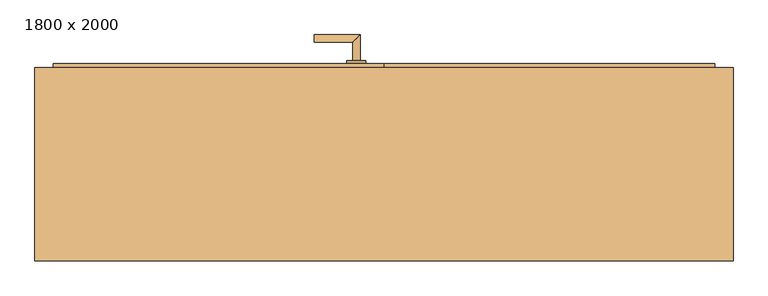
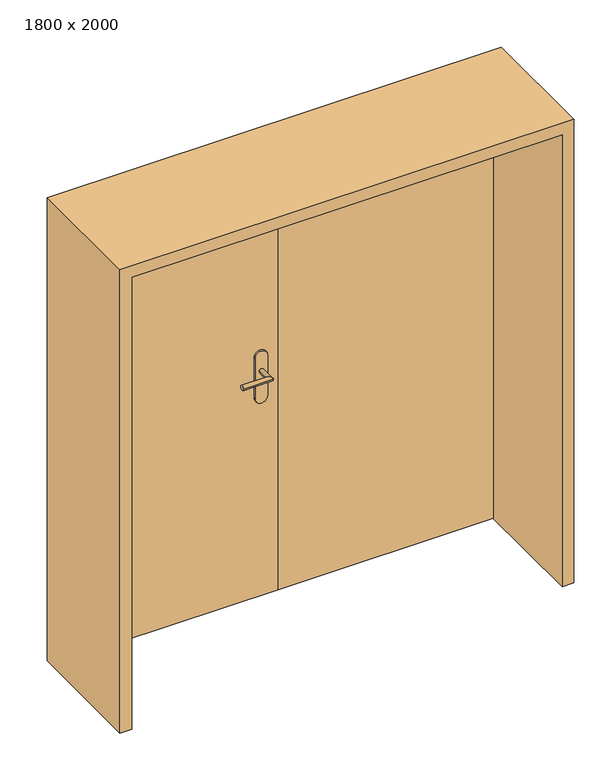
"""IFC4 building model written with IfcOpenShell, lengths in millimetres: door geometry, Dvoukridle oboustrana zaruben : 1800 x 2000."""

from ifc_helpers import new_model, si_unit, point, frame, frame_2d, origin, origin_with_axes, place, context, project, spatial, polyline, circle_curve, ellipse_curve, trimmed, segment, composite_curve, outline, extrude, source, transform, mapped, element, save
from ifc_brep_helpers import plane_surface, cylinder_surface, advanced_brep


def door_1800_x_2000_2bd13d9d(model_context):
    return source(origin(), model_context, "Body", "SolidModel", [
        extrude(outline(composite_curve([segment(polyline([(883.5, -69.0), (1061.5, -69.0)]), True, "CONTINUOUS"), segment(trimmed(circle_curve(frame_2d((1061.5, -95.0)), 26.0), [point((1061.5, -69.0))], [point((1061.5, -121.0))], False, "CARTESIAN"), True, "CONTINUOUS"), segment(polyline([(1061.5, -121.0), (883.5, -121.0)]), True, "CONTINUOUS"), segment(trimmed(circle_curve(frame_2d((883.5, -95.0)), 26.0), [point((883.5, -121.0))], [point((883.5, -69.0))], False, "CARTESIAN"), True, "CONTINUOUS")], self_intersect=False)), frame((0.0, 275.0, 0.0), z_axis=(0.0, 1.0, 0.0), x_axis=(0.0, 0.0, 1.0)), (0.0, 0.0, 1.0), 8.0),
        advanced_brep(
        [(-85.0, 283.0, 1000.0), (-105.0, 283.0, 1000.0), (-105.0, 333.0, 1000.0), (-85.0, 353.0, 1000.0), (-210.0, 353.0, 1000.0), (-210.0, 333.0, 1000.0)],
        [
            (0, 1, circle_curve(frame((-95.0, 283.0, 1000.0), z_axis=(0.0, -1.0, 0.0), x_axis=(-1.0, 0.0, 0.0)), 10.0)),
            (1, 0, circle_curve(frame((-95.0, 283.0, 1000.0), z_axis=(0.0, -1.0, 0.0), x_axis=(-1.0, 0.0, 0.0)), 10.0)),
            (1, 2),
            (2, 3, ellipse_curve(frame((-95.0, 343.0, 1000.0), z_axis=(0.7071067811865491, -0.7071067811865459, 0.0), x_axis=(-0.7071067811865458, -0.7071067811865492, 0.0)), 14.1421356, 10.0)),
            (3, 0),
            (3, 2, ellipse_curve(frame((-95.0, 343.0, 1000.0), z_axis=(0.7071067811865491, -0.7071067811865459, 0.0), x_axis=(-0.7071067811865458, -0.7071067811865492, 0.0)), 14.1421356, 10.0)),
            (4, 5, circle_curve(frame((-210.0, 343.0, 1000.0), z_axis=(-1.0, 0.0, 0.0), x_axis=(0.0, -1.0, 0.0)), 10.0)),
            (5, 4, circle_curve(frame((-210.0, 343.0, 1000.0), z_axis=(-1.0, 0.0, 0.0), x_axis=(0.0, -1.0, 0.0)), 10.0)),
            (2, 5),
            (4, 3),
        ],
        [
            plane_surface(frame((-95.0, 283.0, 1000.0), z_axis=(0.0, -1.0, 0.0), x_axis=(0.0, 0.0, 1.0))),
            cylinder_surface(frame((-95.0, 283.0, 1000.0), z_axis=(0.0, -1.0, 0.0), x_axis=(-1.0, 0.0, 0.0)), 10.0),
            plane_surface(frame((-210.0, 343.0, 1000.0), z_axis=(-1.0, 0.0, 0.0), x_axis=(0.0, 0.0, 1.0))),
            cylinder_surface(frame((-95.0, 343.0, 1000.0), z_axis=(1.0, 0.0, 0.0), x_axis=(0.0, -1.0, 0.0)), 10.0),
        ],
        [
            (0, [[1, 2]]),
            (1, [[3, 4, 5, -2]]),
            (1, [[-5, 6, -3, -1]]),
            (2, [[7, 8]]),
            (3, [[9, -7, 10, -4]]),
            (3, [[-10, -8, -9, -6]]),
        ],
    ),
        extrude(outline(composite_curve([segment(polyline([(883.5, -69.0), (1061.5, -69.0)]), True, "CONTINUOUS"), segment(trimmed(circle_curve(frame_2d((1061.5, -95.0)), 26.0), [point((1061.5, -69.0))], [point((1061.5, -121.0))], False, "CARTESIAN"), True, "CONTINUOUS"), segment(polyline([(1061.5, -121.0), (883.5, -121.0)]), True, "CONTINUOUS"), segment(trimmed(circle_curve(frame_2d((883.5, -95.0)), 26.0), [point((883.5, -121.0))], [point((883.5, -69.0))], False, "CARTESIAN"), True, "CONTINUOUS")], self_intersect=False)), frame((0.0, 227.0, 0.0), z_axis=(0.0, 1.0, 0.0), x_axis=(0.0, 0.0, 1.0)), (0.0, 0.0, 1.0), 8.0),
        advanced_brep(
        [(-85.0, 227.0, 1000.0), (-105.0, 227.0, 1000.0), (-85.0, 157.0, 1000.0), (-105.0, 177.0, 1000.0), (-210.0, 157.0, 1000.0), (-210.0, 177.0, 1000.0)],
        [
            (0, 1, circle_curve(frame((-95.0, 227.0, 1000.0), z_axis=(0.0, 1.0, 0.0), x_axis=(-1.0, 0.0, 0.0)), 10.0)),
            (1, 0, circle_curve(frame((-95.0, 227.0, 1000.0), z_axis=(0.0, 1.0, 0.0), x_axis=(-1.0, 0.0, 0.0)), 10.0)),
            (0, 2),
            (2, 3, ellipse_curve(frame((-95.0, 167.0, 1000.0), z_axis=(0.7071067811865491, 0.7071067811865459, 0.0), x_axis=(-0.7071067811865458, 0.7071067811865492, 0.0)), 14.1421356, 10.0)),
            (3, 1),
            (3, 2, ellipse_curve(frame((-95.0, 167.0, 1000.0), z_axis=(0.7071067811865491, 0.7071067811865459, 0.0), x_axis=(-0.7071067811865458, 0.7071067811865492, 0.0)), 14.1421356, 10.0)),
            (4, 5, circle_curve(frame((-210.0, 167.0, 1000.0), z_axis=(-1.0, 0.0, 0.0), x_axis=(0.0, 1.0, 0.0)), 10.0)),
            (5, 4, circle_curve(frame((-210.0, 167.0, 1000.0), z_axis=(-1.0, 0.0, 0.0), x_axis=(0.0, 1.0, 0.0)), 10.0)),
            (2, 4),
            (5, 3),
        ],
        [
            plane_surface(frame((-95.0, 227.0, 1000.0), z_axis=(0.0, 1.0, 0.0), x_axis=(0.0, 0.0, 1.0))),
            cylinder_surface(frame((-95.0, 227.0, 1000.0), z_axis=(0.0, 1.0, 0.0), x_axis=(-1.0, 0.0, 0.0)), 10.0),
            plane_surface(frame((-210.0, 167.0, 1000.0), z_axis=(-1.0, 0.0, 0.0), x_axis=(0.0, 0.0, 1.0))),
            cylinder_surface(frame((-95.0, 167.0, 1000.0), z_axis=(1.0, 0.0, 0.0), x_axis=(0.0, 1.0, 0.0)), 10.0),
        ],
        [
            (0, [[1, 2]]),
            (1, [[-1, 3, 4, 5]]),
            (1, [[-2, -5, 6, -3]]),
            (2, [[7, 8]]),
            (3, [[-4, 9, -8, 10]]),
            (3, [[-6, -10, -7, -9]]),
        ],
    ),
        extrude(outline(polyline([(-20.0, 275.0), (880.0, 275.0), (880.0, 235.0), (-20.0, 235.0), (-20.0, 275.0)])), origin_with_axes(), (0.0, 0.0, 1.0), 2000.0),
        extrude(outline(polyline([(-920.0, 275.0), (-20.0, 275.0), (-20.0, 235.0), (-920.0, 235.0), (-920.0, 275.0)])), origin_with_axes(), (0.0, 0.0, 1.0), 2000.0),
        extrude(outline(polyline([(0.0, 880.0), (0.0, 930.0), (2050.0, 930.0), (2050.0, -970.0), (0.0, -970.0), (0.0, -920.0), (2000.0, -920.0), (2000.0, 880.0), (0.0, 880.0)])), frame((0.0, -263.0, 0.0), z_axis=(0.0, 1.0, 0.0), x_axis=(0.0, 0.0, 1.0)), (0.0, 0.0, 1.0), 526.0),
    ])


if __name__ == "__main__":
    model = new_model("IFC4")
    model_context = context("Model", 3, world=origin())
    ifc_project = project(units=[si_unit("LENGTHUNIT", "METRE", prefix="MILLI")], contexts=[model_context])
    site = spatial("IfcSite", under=ifc_project)
    building = spatial("IfcBuilding", under=site)
    placement = place(None, origin())
    door_1800_x_2000_shape = door_1800_x_2000_2bd13d9d(model_context)
    element("IfcDoor", 1, ObjectType="Dvoukridle oboustrana zaruben : 1800 x 2000", at=placement, inside=building, context=model_context, shape_type="MappedRepresentation", body=[
        mapped(door_1800_x_2000_shape, transform((0.0, 0.0, 0.0), x_axis=(1.0, 0.0, 0.0), y_axis=(0.0, 1.0, 0.0), z_axis=(0.0, 0.0, 1.0))),
    ])
    save(model, "model.ifc")
